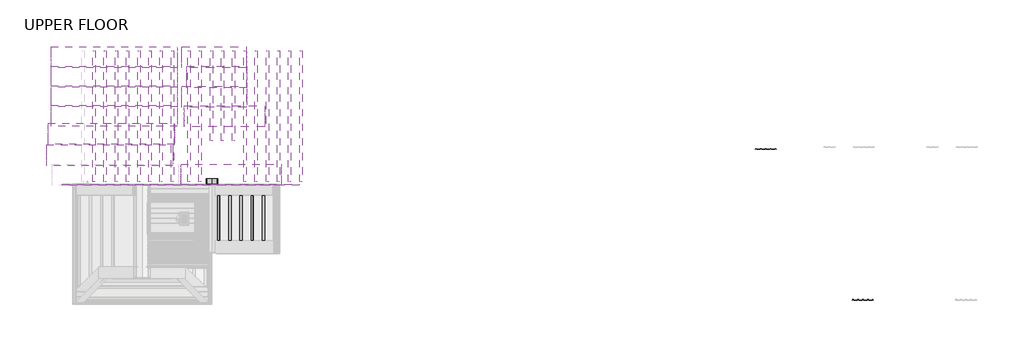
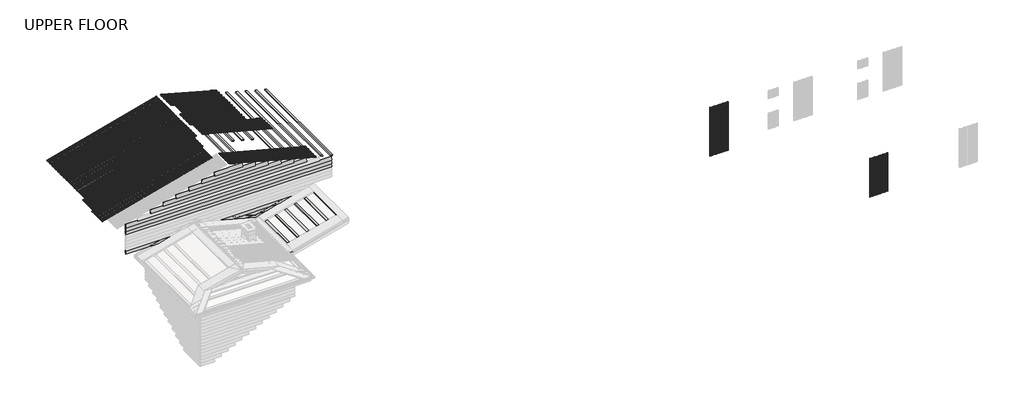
# One storey, part 6 of 8: 53 beams.
"""IFC4 building model written with IfcOpenShell, lengths in millimetres."""

from ifc_helpers import new_model, si_unit, point, frame, frame_2d, origin, place, context, project, spatial, polyline, circle_curve, trimmed, segment, composite_curve, outline, extrude, faceted_brep, transform, mapped, element, save
from components import beam_5dd2faeb, beam_7249f60c, beam_1c965193, beam_935f3c2a, beam_6eb492fa, beam_005bef61, beam_17126593, beam_597bee83, beam_33133b0b, beam_f31299b4, beam_e4c2bb90, beam_09a4361b, beam_6bf42582, beam_c81321a4, timber_gauged_nz_200_x_20_2958524c, timber_gauged_nz_200_x_20_781fe1b4, timber_gauged_nz_90_x_45_95d2d74a, timber_gauged_nz_90_x_45_65e6c5fe, timber_gauged_nz_90_x_45_1150c088

model = new_model("IFC4")

# Units and contexts
model_context = context("Model", 3, world=origin())
ifc_project = project(units=[si_unit("LENGTHUNIT", "METRE", prefix="MILLI")], contexts=[model_context])

# Site, building, storey
site = spatial("IfcSite", under=ifc_project)
building = spatial("IfcBuilding", under=site)
storey = spatial("IfcBuildingStorey", under=building, Name="UPPER FLOOR", Elevation=2700.0)

# Beams
placement = place(None, origin())
element("IfcBeam", 1, ObjectType="weatherboad : weatherboad", at=placement, inside=storey, context=model_context, shape_type="Brep", body=[
    faceted_brep([(-11066.1237376, -22095.3135714, 3295.6426274), (-11058.1375384, -22095.5797958, 3293.5027318), (-11050.1513392, -22095.3135714, 3295.6426274), (-11058.1375384, -22086.1704124, 3293.5027318), (-11061.9339927, -22086.1704124, 3294.5199886), (-11054.3410841, -22086.1704124, 3294.5199886)], [[[0, 1, 2]], [[3, 4, 5]], [[4, 0, 2, 5]], [[1, 0, 4, 3]], [[2, 1, 3, 5]]]),
])
element("IfcBeam", 2, ObjectType="weatherboad : weatherboad", at=placement, inside=storey, context=model_context, shape_type="Brep", body=[
    faceted_brep([(-11638.9935366, -22095.3135714, 3449.1426274), (-11058.1375384, -22114.6767312, 3293.5027318), (-10477.2815402, -22095.3135714, 3449.1426274), (-11058.1375384, -22095.5714026, 3293.5027318), (-11343.8817133, -22086.1704124, 3370.0676527), (-10772.3933635, -22086.1704124, 3370.0676527), (-11634.8037917, -22086.1704124, 3448.0199886), (-10481.4712851, -22086.1704124, 3448.0199886)], [[[0, 1, 2]], [[3, 4, 5]], [[4, 6, 7, 5]], [[6, 0, 2, 7]], [[1, 0, 6, 4, 3]], [[2, 1, 3, 5, 7]]]),
])
element("IfcBeam", 3, ObjectType="weatherboad : weatherboad", at=placement, inside=storey, context=model_context, shape_type="Brep", body=[
    faceted_brep([(-12211.8633355, -22095.3135714, 3602.6426274), (-11545.2325252, -22117.5360826, 3424.0194401), (-10571.0425516, -22117.5360826, 3424.0194401), (-9904.4117413, -22095.3135714, 3602.6426274), (-11536.5908961, -22098.6777057, 3421.7039226), (-10579.6841807, -22098.6777057, 3421.7039226), (-11916.7515123, -22086.1704124, 3523.5676527), (-10199.5235645, -22086.1704124, 3523.5676527), (-12207.6735907, -22086.1704124, 3601.5199886), (-9908.6014862, -22086.1704124, 3601.5199886)], [[[0, 1, 2, 3]], [[1, 4, 5, 2]], [[4, 6, 7, 5]], [[6, 8, 9, 7]], [[8, 0, 3, 9]], [[1, 0, 8, 6, 4]], [[3, 2, 5, 7, 9]]]),
])
element("IfcBeam", 4, ObjectType="weatherboad : weatherboad", at=placement, inside=storey, context=model_context, shape_type="Brep", body=[
    faceted_brep([(-16868.1375384, -22095.3135714, 3756.1426274), (-16868.1375384, -22086.1704124, 3755.0199886), (-16868.1375384, -22086.1704124, 3677.0676527), (-16868.1375384, -22098.6777057, 3575.2039226), (-16868.1375384, -22117.5360826, 3577.5194401), (-15428.3918495, -22117.5360826, 3577.5194401), (-14761.7610391, -22095.3135714, 3756.1426274), (-15437.0334785, -22098.6777057, 3575.2039226), (-15056.8728623, -22086.1704124, 3677.0676527), (-14765.950784, -22086.1704124, 3755.0199886)], [[[0, 1, 2, 3, 4]], [[0, 4, 5, 6]], [[4, 3, 7, 5]], [[3, 2, 8, 7]], [[2, 1, 9, 8]], [[1, 0, 6, 9]], [[6, 5, 7, 8, 9]]]),
    faceted_brep([(-12784.7331345, -22095.3135714, 3756.1426274), (-12118.1023241, -22117.5360826, 3577.5194401), (-9998.1727527, -22117.5360826, 3577.5194401), (-9331.5419423, -22095.3135714, 3756.1426274), (-12109.4606951, -22098.6777057, 3575.2039226), (-10006.8143817, -22098.6777057, 3575.2039226), (-12489.6213113, -22086.1704124, 3677.0676527), (-9626.6537655, -22086.1704124, 3677.0676527), (-12780.5433896, -22086.1704124, 3755.0199886), (-9335.7316872, -22086.1704124, 3755.0199886)], [[[0, 1, 2, 3]], [[1, 4, 5, 2]], [[4, 6, 7, 5]], [[6, 8, 9, 7]], [[8, 0, 3, 9]], [[1, 0, 8, 6, 4]], [[3, 2, 5, 7, 9]]]),
])
element("IfcBeam", 5, ObjectType="3D_Metalcraft T-Rib3 : 3D_Metalcraft T-Rib 2", at=placement, inside=storey, context=model_context, shape_type="SweptSolid", body=[
    extrude(outline(composite_curve([segment(polyline([(10116.5389635, -20727.811167), (10071.901934, -20727.811167)]), True, "CONTINUOUS"), segment(trimmed(circle_curve(frame_2d((10072.6822552, -20723.4724554)), 4.4083239), [point((10071.901934, -20727.811167))], [point((10069.0809482, -20726.014877))], False, "CARTESIAN"), True, "CONTINUOUS"), segment(polyline([(10069.0809482, -20726.014877), (10054.4746822, -20703.9737825)]), True, "CONTINUOUS"), segment(trimmed(circle_curve(frame_2d((10052.9626373, -20704.9757895)), 1.8139178), [point((10054.4746822, -20703.9737825))], [point((10053.3727419, -20703.2088395))], True, "CARTESIAN"), True, "CONTINUOUS"), segment(trimmed(circle_curve(frame_2d((10044.3071398, -20731.9107067)), 30.0995402), [point((10053.3727419, -20703.2088395))], [point((10044.3012249, -20701.8111671))], True, "CARTESIAN"), True, "CONTINUOUS"), segment(trimmed(circle_curve(frame_2d((10044.29531, -20731.9107067)), 30.0995402), [point((10044.3012249, -20701.8111671))], [point((10035.2297079, -20703.2088395))], True, "CARTESIAN"), True, "CONTINUOUS"), segment(trimmed(circle_curve(frame_2d((10035.6398125, -20704.9757895)), 1.8139178), [point((10035.2297079, -20703.2088395))], [point((10034.1277676, -20703.9737825))], True, "CARTESIAN"), True, "CONTINUOUS"), segment(polyline([(10034.1277676, -20703.9737825), (10019.9502006, -20725.3679632)]), True, "CONTINUOUS"), segment(trimmed(circle_curve(frame_2d((10019.5334108, -20725.0917635)), 0.5), [point((10019.9502006, -20725.3679632))], [point((10019.116621, -20724.8155638))], False, "CARTESIAN"), True, "CONTINUOUS"), segment(polyline([(10019.116621, -20724.8155638), (10033.4621302, -20703.1679556)]), True, "CONTINUOUS"), segment(trimmed(circle_curve(frame_2d((10035.0604038, -20704.2271048)), 1.9173616), [point((10033.4621302, -20703.1679556))], [point((10034.5184026, -20702.3879446))], False, "CARTESIAN"), True, "CONTINUOUS"), segment(trimmed(circle_curve(frame_2d((10044.29531, -20731.9107067)), 31.0995402), [point((10034.5184026, -20702.3879446))], [point((10044.3012249, -20700.8111671))], False, "CARTESIAN"), True, "CONTINUOUS"), segment(trimmed(circle_curve(frame_2d((10044.3071398, -20731.9107067)), 31.0995402), [point((10044.3012249, -20700.8111671))], [point((10054.0840472, -20702.3879446))], False, "CARTESIAN"), True, "CONTINUOUS"), segment(trimmed(circle_curve(frame_2d((10053.542046, -20704.2271048)), 1.9173616), [point((10054.0840472, -20702.3879446))], [point((10055.1403196, -20703.1679556))], False, "CARTESIAN"), True, "CONTINUOUS"), segment(polyline([(10055.1403196, -20703.1679556), (10069.9058608, -20725.4493991)]), True, "CONTINUOUS"), segment(trimmed(circle_curve(frame_2d((10072.6822552, -20723.4724554)), 3.4083239), [point((10069.9058608, -20725.4493991))], [point((10071.9969257, -20726.811167))], True, "CARTESIAN"), True, "CONTINUOUS"), segment(polyline([(10071.9969257, -20726.811167), (10116.3381507, -20726.811167), (10120.4543009, -20725.0885495), (10158.1481489, -20725.0885495), (10162.2642991, -20726.811167), (10204.2062333, -20726.811167)]), True, "CONTINUOUS"), segment(trimmed(circle_curve(frame_2d((10203.5209037, -20723.4724554)), 3.4083239), [point((10204.2062333, -20726.811167))], [point((10206.4235341, -20725.2589068))], True, "CARTESIAN"), True, "CONTINUOUS"), segment(polyline([(10206.4235341, -20725.2589068), (10221.8012249, -20702.0537196)]), True, "CONTINUOUS"), segment(trimmed(circle_curve(frame_2d((10225.1941504, -20704.4070438)), 4.1291741), [point((10221.8012249, -20702.0537196))], [point((10223.8886949, -20700.489664))], False, "CARTESIAN"), True, "CONTINUOUS"), segment(trimmed(circle_curve(frame_2d((10234.29531, -20731.9107067)), 33.0995402), [point((10223.8886949, -20700.489664))], [point((10234.3012249, -20698.811167))], False, "CARTESIAN"), True, "CONTINUOUS"), segment(trimmed(circle_curve(frame_2d((10234.3071398, -20731.9107067)), 33.0995402), [point((10234.3012249, -20698.811167))], [point((10244.7137549, -20700.489664))], False, "CARTESIAN"), True, "CONTINUOUS"), segment(trimmed(circle_curve(frame_2d((10243.4082994, -20704.4070438)), 4.1291741), [point((10244.7137549, -20700.489664))], [point((10246.8012249, -20702.0537196))], False, "CARTESIAN"), True, "CONTINUOUS"), segment(polyline([(10246.8012249, -20702.0537196), (10262.1789157, -20725.2589068)]), True, "CONTINUOUS"), segment(trimmed(circle_curve(frame_2d((10265.0815461, -20723.4724554)), 3.4083239), [point((10262.1789157, -20725.2589068))], [point((10264.3962165, -20726.811167))], True, "CARTESIAN"), True, "CONTINUOUS"), segment(polyline([(10264.3962165, -20726.811167), (10306.3381507, -20726.811167), (10310.4543009, -20725.0885495), (10348.1481489, -20725.0885495), (10352.2642991, -20726.811167), (10394.2062333, -20726.811167)]), True, "CONTINUOUS"), segment(trimmed(circle_curve(frame_2d((10393.5209037, -20723.4724554)), 3.4083239), [point((10394.2062333, -20726.811167))], [point((10396.4235341, -20725.2589068))], True, "CARTESIAN"), True, "CONTINUOUS"), segment(polyline([(10396.4235341, -20725.2589068), (10411.8012249, -20702.0537196)]), True, "CONTINUOUS"), segment(trimmed(circle_curve(frame_2d((10415.1941504, -20704.4070438)), 4.1291741), [point((10411.8012249, -20702.0537196))], [point((10413.8886949, -20700.489664))], False, "CARTESIAN"), True, "CONTINUOUS"), segment(trimmed(circle_curve(frame_2d((10424.29531, -20731.9107067)), 33.0995402), [point((10413.8886949, -20700.489664))], [point((10424.3012249, -20698.811167))], False, "CARTESIAN"), True, "CONTINUOUS"), segment(trimmed(circle_curve(frame_2d((10424.3071398, -20731.9107067)), 33.0995402), [point((10424.3012249, -20698.811167))], [point((10434.7137549, -20700.489664))], False, "CARTESIAN"), True, "CONTINUOUS"), segment(trimmed(circle_curve(frame_2d((10433.4082994, -20704.4070438)), 4.1291741), [point((10434.7137549, -20700.489664))], [point((10436.8012249, -20702.0537196))], False, "CARTESIAN"), True, "CONTINUOUS"), segment(polyline([(10436.8012249, -20702.0537196), (10452.1789157, -20725.2589068)]), True, "CONTINUOUS"), segment(trimmed(circle_curve(frame_2d((10455.0815461, -20723.4724554)), 3.4083239), [point((10452.1789157, -20725.2589068))], [point((10454.3962166, -20726.811167))], True, "CARTESIAN"), True, "CONTINUOUS"), segment(polyline([(10454.3962166, -20726.811167), (10496.3381507, -20726.811167), (10500.4543009, -20725.0885495), (10538.1481489, -20725.0885495), (10542.2642991, -20726.811167), (10584.2062333, -20726.811167)]), True, "CONTINUOUS"), segment(trimmed(circle_curve(frame_2d((10583.5209037, -20723.4724554)), 3.4083239), [point((10584.2062333, -20726.811167))], [point((10586.4235341, -20725.2589068))], True, "CARTESIAN"), True, "CONTINUOUS"), segment(polyline([(10586.4235341, -20725.2589068), (10601.8012249, -20702.0537196)]), True, "CONTINUOUS"), segment(trimmed(circle_curve(frame_2d((10605.1941504, -20704.4070438)), 4.1291741), [point((10601.8012249, -20702.0537196))], [point((10603.8886949, -20700.489664))], False, "CARTESIAN"), True, "CONTINUOUS"), segment(trimmed(circle_curve(frame_2d((10614.29531, -20731.9107067)), 33.0995402), [point((10603.8886949, -20700.489664))], [point((10614.3012249, -20698.811167))], False, "CARTESIAN"), True, "CONTINUOUS"), segment(trimmed(circle_curve(frame_2d((10614.3071398, -20731.9107067)), 33.0995402), [point((10614.3012249, -20698.811167))], [point((10624.7137549, -20700.489664))], False, "CARTESIAN"), True, "CONTINUOUS"), segment(trimmed(circle_curve(frame_2d((10623.4082994, -20704.4070438)), 4.1291741), [point((10624.7137549, -20700.489664))], [point((10626.8012249, -20702.0537196))], False, "CARTESIAN"), True, "CONTINUOUS"), segment(polyline([(10626.8012249, -20702.0537196), (10642.1789157, -20725.2589068)]), True, "CONTINUOUS"), segment(trimmed(circle_curve(frame_2d((10645.0815461, -20723.4724554)), 3.4083239), [point((10642.1789157, -20725.2589068))], [point((10644.3962166, -20726.811167))], True, "CARTESIAN"), True, "CONTINUOUS"), segment(polyline([(10644.3962166, -20726.811167), (10686.3381507, -20726.811167), (10690.454301, -20725.0885495), (10728.1481489, -20725.0885495), (10732.2642991, -20726.811167), (10774.2062333, -20726.811167)]), True, "CONTINUOUS"), segment(trimmed(circle_curve(frame_2d((10773.5209037, -20723.4724554)), 3.4083239), [point((10774.2062333, -20726.811167))], [point((10776.4235341, -20725.2589068))], True, "CARTESIAN"), True, "CONTINUOUS"), segment(polyline([(10776.4235341, -20725.2589068), (10791.8012249, -20702.0537196)]), True, "CONTINUOUS"), segment(trimmed(circle_curve(frame_2d((10795.1941504, -20704.4070438)), 4.1291741), [point((10791.8012249, -20702.0537196))], [point((10793.8886949, -20700.489664))], False, "CARTESIAN"), True, "CONTINUOUS"), segment(trimmed(circle_curve(frame_2d((10804.29531, -20731.9107067)), 33.0995402), [point((10793.8886949, -20700.489664))], [point((10804.3012249, -20698.811167))], False, "CARTESIAN"), True, "CONTINUOUS"), segment(trimmed(circle_curve(frame_2d((10804.3071398, -20731.9107067)), 33.0995402), [point((10804.3012249, -20698.811167))], [point((10814.7137549, -20700.489664))], False, "CARTESIAN"), True, "CONTINUOUS"), segment(trimmed(circle_curve(frame_2d((10813.4082994, -20704.4070438)), 4.1291741), [point((10814.7137549, -20700.489664))], [point((10816.8012249, -20702.0537196))], False, "CARTESIAN"), True, "CONTINUOUS"), segment(polyline([(10816.8012249, -20702.0537196), (10830.9797854, -20723.4493996)]), True, "CONTINUOUS"), segment(trimmed(circle_curve(frame_2d((10833.7561794, -20721.4724554)), 3.4083239), [point((10830.9797854, -20723.4493996))], [point((10833.0708499, -20724.811167))], True, "CARTESIAN"), True, "CONTINUOUS"), segment(polyline([(10833.0708499, -20724.811167), (10836.6244934, -20724.811167)]), True, "CONTINUOUS"), segment(trimmed(circle_curve(frame_2d((10836.6244934, -20725.311167)), 0.5), [point((10836.6244934, -20724.811167))], [point((10836.6244934, -20725.811167))], False, "CARTESIAN"), True, "CONTINUOUS"), segment(polyline([(10836.6244934, -20725.811167), (10832.9758582, -20725.811167)]), True, "CONTINUOUS"), segment(trimmed(circle_curve(frame_2d((10833.7561794, -20721.4724554)), 4.4083239), [point((10832.9758582, -20725.811167))], [point((10830.1548728, -20724.0148775))], False, "CARTESIAN"), True, "CONTINUOUS"), segment(polyline([(10830.1548728, -20724.0148775), (10815.9738992, -20702.6155562)]), True, "CONTINUOUS"), segment(trimmed(circle_curve(frame_2d((10813.4082994, -20704.4070438)), 3.1291741), [point((10815.9738992, -20702.6155562))], [point((10814.3984218, -20701.4386456))], True, "CARTESIAN"), True, "CONTINUOUS"), segment(trimmed(circle_curve(frame_2d((10804.3071398, -20731.9107067)), 32.0995402), [point((10814.3984218, -20701.4386456))], [point((10804.3012249, -20699.811167))], True, "CARTESIAN"), True, "CONTINUOUS"), segment(trimmed(circle_curve(frame_2d((10804.29531, -20731.9107067)), 32.0995402), [point((10804.3012249, -20699.811167))], [point((10794.204028, -20701.4386456))], True, "CARTESIAN"), True, "CONTINUOUS"), segment(trimmed(circle_curve(frame_2d((10795.1941504, -20704.4070438)), 3.1291741), [point((10794.204028, -20701.4386456))], [point((10792.6285506, -20702.6155562))], True, "CARTESIAN"), True, "CONTINUOUS"), segment(polyline([(10792.6285506, -20702.6155562), (10777.1222107, -20726.014877)]), True, "CONTINUOUS"), segment(trimmed(circle_curve(frame_2d((10773.5209037, -20723.4724554)), 4.4083239), [point((10777.1222107, -20726.014877))], [point((10774.3012249, -20727.811167))], False, "CARTESIAN"), True, "CONTINUOUS"), segment(polyline([(10774.3012249, -20727.811167), (10732.0634863, -20727.811167), (10727.947336, -20726.0885495), (10690.6551138, -20726.0885495), (10686.5389636, -20727.811167), (10644.3012249, -20727.811167)]), True, "CONTINUOUS"), segment(trimmed(circle_curve(frame_2d((10645.0815461, -20723.4724554)), 4.4083239), [point((10644.3012249, -20727.811167))], [point((10641.4802391, -20726.014877))], False, "CARTESIAN"), True, "CONTINUOUS"), segment(polyline([(10641.4802391, -20726.014877), (10625.9738992, -20702.6155562)]), True, "CONTINUOUS"), segment(trimmed(circle_curve(frame_2d((10623.4082994, -20704.4070438)), 3.1291741), [point((10625.9738992, -20702.6155562))], [point((10624.3984218, -20701.4386456))], True, "CARTESIAN"), True, "CONTINUOUS"), segment(trimmed(circle_curve(frame_2d((10614.3071398, -20731.9107067)), 32.0995402), [point((10624.3984218, -20701.4386456))], [point((10614.3012249, -20699.811167))], True, "CARTESIAN"), True, "CONTINUOUS"), segment(trimmed(circle_curve(frame_2d((10614.29531, -20731.9107067)), 32.0995402), [point((10614.3012249, -20699.811167))], [point((10604.204028, -20701.4386456))], True, "CARTESIAN"), True, "CONTINUOUS"), segment(trimmed(circle_curve(frame_2d((10605.1941504, -20704.4070438)), 3.1291741), [point((10604.204028, -20701.4386456))], [point((10602.6285506, -20702.6155562))], True, "CARTESIAN"), True, "CONTINUOUS"), segment(polyline([(10602.6285506, -20702.6155562), (10587.1222107, -20726.014877)]), True, "CONTINUOUS"), segment(trimmed(circle_curve(frame_2d((10583.5209037, -20723.4724554)), 4.4083239), [point((10587.1222107, -20726.014877))], [point((10584.3012249, -20727.811167))], False, "CARTESIAN"), True, "CONTINUOUS"), segment(polyline([(10584.3012249, -20727.811167), (10542.0634863, -20727.811167), (10537.947336, -20726.0885495), (10500.6551138, -20726.0885495), (10496.5389635, -20727.811167), (10454.3012249, -20727.811167)]), True, "CONTINUOUS"), segment(trimmed(circle_curve(frame_2d((10455.0815461, -20723.4724554)), 4.4083239), [point((10454.3012249, -20727.811167))], [point((10451.4802391, -20726.014877))], False, "CARTESIAN"), True, "CONTINUOUS"), segment(polyline([(10451.4802391, -20726.014877), (10435.9738992, -20702.6155562)]), True, "CONTINUOUS"), segment(trimmed(circle_curve(frame_2d((10433.4082994, -20704.4070438)), 3.1291741), [point((10435.9738992, -20702.6155562))], [point((10434.3984218, -20701.4386456))], True, "CARTESIAN"), True, "CONTINUOUS"), segment(trimmed(circle_curve(frame_2d((10424.3071398, -20731.9107067)), 32.0995402), [point((10434.3984218, -20701.4386456))], [point((10424.3012249, -20699.811167))], True, "CARTESIAN"), True, "CONTINUOUS"), segment(trimmed(circle_curve(frame_2d((10424.29531, -20731.9107067)), 32.0995402), [point((10424.3012249, -20699.811167))], [point((10414.204028, -20701.4386456))], True, "CARTESIAN"), True, "CONTINUOUS"), segment(trimmed(circle_curve(frame_2d((10415.1941504, -20704.4070438)), 3.1291741), [point((10414.204028, -20701.4386456))], [point((10412.6285506, -20702.6155562))], True, "CARTESIAN"), True, "CONTINUOUS"), segment(polyline([(10412.6285506, -20702.6155562), (10397.1222107, -20726.014877)]), True, "CONTINUOUS"), segment(trimmed(circle_curve(frame_2d((10393.5209037, -20723.4724554)), 4.4083239), [point((10397.1222107, -20726.014877))], [point((10394.3012249, -20727.811167))], False, "CARTESIAN"), True, "CONTINUOUS"), segment(polyline([(10394.3012249, -20727.811167), (10352.0634863, -20727.811167), (10347.947336, -20726.0885495), (10310.6551138, -20726.0885495), (10306.5389635, -20727.811167), (10264.3012249, -20727.811167)]), True, "CONTINUOUS"), segment(trimmed(circle_curve(frame_2d((10265.0815461, -20723.4724554)), 4.4083239), [point((10264.3012249, -20727.811167))], [point((10261.4802391, -20726.014877))], False, "CARTESIAN"), True, "CONTINUOUS"), segment(polyline([(10261.4802391, -20726.014877), (10245.9738992, -20702.6155562)]), True, "CONTINUOUS"), segment(trimmed(circle_curve(frame_2d((10243.4082994, -20704.4070438)), 3.1291741), [point((10245.9738992, -20702.6155562))], [point((10244.3984218, -20701.4386456))], True, "CARTESIAN"), True, "CONTINUOUS"), segment(trimmed(circle_curve(frame_2d((10234.3071398, -20731.9107067)), 32.0995402), [point((10244.3984218, -20701.4386456))], [point((10234.3012249, -20699.811167))], True, "CARTESIAN"), True, "CONTINUOUS"), segment(trimmed(circle_curve(frame_2d((10234.29531, -20731.9107067)), 32.0995402), [point((10234.3012249, -20699.811167))], [point((10224.204028, -20701.4386456))], True, "CARTESIAN"), True, "CONTINUOUS"), segment(trimmed(circle_curve(frame_2d((10225.1941504, -20704.4070438)), 3.1291741), [point((10224.204028, -20701.4386456))], [point((10222.6285506, -20702.6155562))], True, "CARTESIAN"), True, "CONTINUOUS"), segment(polyline([(10222.6285506, -20702.6155562), (10207.1222107, -20726.014877)]), True, "CONTINUOUS"), segment(trimmed(circle_curve(frame_2d((10203.5209037, -20723.4724554)), 4.4083239), [point((10207.1222107, -20726.014877))], [point((10204.3012249, -20727.811167))], False, "CARTESIAN"), True, "CONTINUOUS"), segment(polyline([(10204.3012249, -20727.811167), (10162.0634863, -20727.811167), (10157.947336, -20726.0885495), (10120.6551138, -20726.0885495), (10116.5389635, -20727.811167)]), True, "CONTINUOUS")], self_intersect=False)), frame((0.0, 0.0, -2042.7323421), z_axis=(0.0, 0.0, 1.0), x_axis=(1.0, 0.0, 0.0)), (0.0, 0.0, 1.0), 2280.0),
])
beam_shape = beam_5dd2faeb(model_context)
element("IfcBeam", 6, ObjectType="3D_Metalcraft T-Rib : 3D_Metalcraft T-Rib", at=placement, inside=storey, context=model_context, shape_type="MappedRepresentation", body=[
    mapped(beam_shape, transform((-10312.245615, -21334.9204124, 5749.2381857), x_axis=(0.9659258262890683, 0.0, -0.2588190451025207), y_axis=(0.0, 1.0, 0.0), z_axis=(0.2588190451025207, 0.0, 0.9659258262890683))),
])
beam_2_shape = beam_7249f60c(model_context)
element("IfcBeam", 7, ObjectType="3D_Metalcraft T-Rib : 3D_Metalcraft T-Rib", at=placement, inside=storey, context=model_context, shape_type="MappedRepresentation", body=[
    mapped(beam_2_shape, transform((-10564.1466041, -19054.9204124, 5816.7348523), x_axis=(0.9659258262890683, 0.0, -0.2588190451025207), y_axis=(0.0, 1.0, 0.0), z_axis=(0.2588190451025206, 0.0, 0.9659258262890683))),
])
beam_3_shape = beam_1c965193(model_context)
element("IfcBeam", 8, ObjectType="3D_Metalcraft T-Rib : 3D_Metalcraft T-Rib", at=placement, inside=storey, context=model_context, shape_type="MappedRepresentation", body=[
    mapped(beam_3_shape, transform((-10970.1126179, -18294.9204124, 5925.5131178), x_axis=(0.9659258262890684, 0.0, -0.2588190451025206), y_axis=(0.0, 1.0000000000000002, 0.0), z_axis=(0.2588190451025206, 0.0, 0.9659258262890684))),
])
beam_4_shape = beam_935f3c2a(model_context)
element("IfcBeam", 9, ObjectType="3D_Metalcraft T-Rib : 3D_Metalcraft T-Rib", at=placement, inside=storey, context=model_context, shape_type="MappedRepresentation", body=[
    mapped(beam_4_shape, transform((-10869.1918416, -17534.9204124, 5898.4714773), x_axis=(0.9659258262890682, 0.0, -0.25881904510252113), y_axis=(0.0, 1.0, 0.0), z_axis=(0.25881904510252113, 0.0, 0.9659258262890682))),
])
beam_5_shape = beam_6eb492fa(model_context)
element("IfcBeam", 10, ObjectType="3D_Metalcraft T-Rib : 3D_Metalcraft T-Rib", at=placement, inside=storey, context=model_context, shape_type="MappedRepresentation", body=[
    mapped(beam_5_shape, transform((-10971.1504469, -16774.9204124, 5925.7912033), x_axis=(0.9659258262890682, 0.0, -0.25881904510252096), y_axis=(0.0, 1.0, 0.0), z_axis=(0.25881904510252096, 0.0, 0.9659258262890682))),
])
beam_6_shape = beam_005bef61(model_context)
element("IfcBeam", 11, ObjectType="3D_Metalcraft T-Rib : 3D_Metalcraft T-Rib", at=placement, inside=storey, context=model_context, shape_type="MappedRepresentation", body=[
    mapped(beam_6_shape, transform((-15026.4317592, -21330.3735388, 5536.91463), x_axis=(-0.9659258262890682, 0.0, -0.2588190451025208), y_axis=(0.0, -1.0, 0.0), z_axis=(-0.25881904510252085, 0.0, 0.9659258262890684))),
])
element("IfcBeam", 12, ObjectType="3D_Metalcraft T-Rib : 3D_Metalcraft T-Rib", at=placement, inside=storey, context=model_context, shape_type="MappedRepresentation", body=[
    mapped(beam_6_shape, transform((-14966.9141636, -20508.6171104, 5552.8623217), x_axis=(-0.9659258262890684, 0.0, -0.2588190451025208), y_axis=(0.0, -1.0000000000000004, 0.0), z_axis=(-0.25881904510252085, 0.0, 0.9659258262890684))),
])
element("IfcBeam", 13, ObjectType="3D_Metalcraft T-Rib : 3D_Metalcraft T-Rib", at=placement, inside=storey, context=model_context, shape_type="MappedRepresentation", body=[
    mapped(beam_6_shape, transform((-14852.5651105, -19810.3735388, 5583.5020581), x_axis=(-0.9659258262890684, 0.0, -0.25881904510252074), y_axis=(0.0, -1.0000000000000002, 0.0), z_axis=(-0.25881904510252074, 0.0, 0.9659258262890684))),
])
element("IfcBeam", 14, ObjectType="3D_Metalcraft T-Rib : 3D_Metalcraft T-Rib", at=placement, inside=storey, context=model_context, shape_type="MappedRepresentation", body=[
    mapped(beam_6_shape, transform((-14852.5651105, -19050.3735388, 5583.5020581), x_axis=(-0.9659258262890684, 0.0, -0.25881904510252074), y_axis=(0.0, -1.0000000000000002, 0.0), z_axis=(-0.25881904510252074, 0.0, 0.9659258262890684))),
])
element("IfcBeam", 15, ObjectType="3D_Metalcraft T-Rib : 3D_Metalcraft T-Rib", at=placement, inside=storey, context=model_context, shape_type="MappedRepresentation", body=[
    mapped(beam_6_shape, transform((-14852.5651105, -18290.3735388, 5583.5020581), x_axis=(-0.9659258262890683, 0.0, -0.2588190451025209), y_axis=(0.0, -1.0000000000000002, 0.0), z_axis=(-0.25881904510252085, 0.0, 0.9659258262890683))),
])
element("IfcBeam", 16, ObjectType="3D_Metalcraft T-Rib : 3D_Metalcraft T-Rib", at=placement, inside=storey, context=model_context, shape_type="MappedRepresentation", body=[
    mapped(beam_6_shape, transform((-14852.5651105, -17530.3735388, 5583.5020581), x_axis=(-0.9659258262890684, 0.0, -0.25881904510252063), y_axis=(0.0, -1.0000000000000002, 0.0), z_axis=(-0.25881904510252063, 0.0, 0.9659258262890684))),
])
beam_7_shape = beam_17126593(model_context)
element("IfcBeam", 17, ObjectType="weatherboad : weatherboad", at=placement, inside=storey, context=model_context, shape_type="MappedRepresentation", body=[
    mapped(beam_7_shape, transform((-12273.1375384, -22086.1704124, 4677.1426274), x_axis=(1.0, 0.0, 0.0), y_axis=(0.0, 0.0, -1.0), z_axis=(0.0, 1.0, 0.0))),
])
element("IfcBeam", 18, ObjectType="weatherboad : weatherboad", at=placement, inside=storey, context=model_context, shape_type="MappedRepresentation", body=[
    mapped(beam_7_shape, transform((-12273.1375384, -22086.1704124, 4830.6426274), x_axis=(1.0, 0.0, 0.0), y_axis=(0.0, 0.0, -1.0), z_axis=(0.0, 1.0, 0.0))),
])
element("IfcBeam", 19, ObjectType="weatherboad : weatherboad", at=placement, inside=storey, context=model_context, shape_type="MappedRepresentation", body=[
    mapped(beam_7_shape, transform((-12273.1375384, -22086.1704124, 4984.1426274), x_axis=(1.0, 0.0, 0.0), y_axis=(0.0, 0.0, -1.0), z_axis=(0.0, 1.0, 0.0))),
])
beam_8_shape = beam_597bee83(model_context)
element("IfcBeam", 20, ObjectType="weatherboad : weatherboad", at=placement, inside=storey, context=model_context, shape_type="MappedRepresentation", body=[
    mapped(beam_8_shape, transform((-12273.1375384, -22086.1704124, 5291.1426274), x_axis=(1.0, 0.0, 0.0), y_axis=(0.0, 0.0, -1.0), z_axis=(0.0, 1.0, 0.0))),
])
beam_9_shape = beam_33133b0b(model_context)
element("IfcBeam", 21, ObjectType="weatherboad : weatherboad", at=placement, inside=storey, context=model_context, shape_type="MappedRepresentation", body=[
    mapped(beam_9_shape, transform((-12273.1375384, -22086.1704124, 5444.6426274), x_axis=(1.0, 0.0, 0.0), y_axis=(0.0, 0.0, -1.0), z_axis=(0.0, 1.0, 0.0))),
])
beam_10_shape = beam_f31299b4(model_context)
element("IfcBeam", 22, ObjectType="weatherboad : weatherboad", at=placement, inside=storey, context=model_context, shape_type="MappedRepresentation", body=[
    mapped(beam_10_shape, transform((-12273.1375384, -22086.1704124, 5598.1426274), x_axis=(1.0, 0.0, 0.0), y_axis=(0.0, 0.0, -1.0), z_axis=(0.0, 1.0, 0.0))),
])
beam_11_shape = beam_e4c2bb90(model_context)
element("IfcBeam", 23, ObjectType="weatherboad : weatherboad", at=placement, inside=storey, context=model_context, shape_type="MappedRepresentation", body=[
    mapped(beam_11_shape, transform((-12273.1375384, -22086.1704124, 5751.6426274), x_axis=(1.0, 0.0, 0.0), y_axis=(0.0, 0.0, -1.0), z_axis=(0.0, 1.0, 0.0))),
])
beam_12_shape = beam_09a4361b(model_context)
element("IfcBeam", 24, ObjectType="weatherboad : weatherboad", at=placement, inside=storey, context=model_context, shape_type="MappedRepresentation", body=[
    mapped(beam_12_shape, transform((-12273.1375384, -22086.1704124, 5905.1426274), x_axis=(1.0, 0.0, 0.0), y_axis=(0.0, 0.0, -1.0), z_axis=(0.0, 1.0, 0.0))),
])
beam_13_shape = beam_6bf42582(model_context)
element("IfcBeam", 25, ObjectType="weatherboad : weatherboad", at=placement, inside=storey, context=model_context, shape_type="MappedRepresentation", body=[
    mapped(beam_13_shape, transform((-12273.1375384, -22086.1704124, 6058.6426274), x_axis=(1.0, 0.0, 0.0), y_axis=(0.0, 0.0, -1.0), z_axis=(0.0, 1.0, 0.0))),
])
beam_14_shape = beam_c81321a4(model_context)
element("IfcBeam", 26, ObjectType="3D_Metalcraft T-Rib1 : 3D_Metalcraft T-Rib 2", at=placement, inside=storey, context=model_context, shape_type="MappedRepresentation", body=[
    mapped(beam_14_shape, transform((14575.3825627, -26549.7391961, -846.662203), x_axis=(0.0, 0.0, 1.0), y_axis=(1.0, 0.0, 0.0), z_axis=(0.0, 1.0, 0.0))),
])
timber_gauged_nz_200_x_20_shape = timber_gauged_nz_200_x_20_2958524c(model_context)
element("IfcBeam", 27, ObjectType="Timber Gauged (NZ) : 200 x 20", at=placement, inside=storey, context=model_context, shape_type="MappedRepresentation", body=[
    mapped(timber_gauged_nz_200_x_20_shape, transform((-11165.7875001, -23297.6204481, 3197.3405196), x_axis=(0.0, 1.0, 0.0), y_axis=(-0.9659258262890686, 0.0, 0.2588190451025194), z_axis=(0.2588190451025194, 0.0, 0.9659258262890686))),
])
timber_gauged_nz_200_x_20_2_shape = timber_gauged_nz_200_x_20_781fe1b4(model_context)
element("IfcBeam", 28, ObjectType="Timber Gauged (NZ) : 200 x 20", at=placement, inside=storey, context=model_context, shape_type="MappedRepresentation", body=[
    mapped(timber_gauged_nz_200_x_20_2_shape, transform((-10950.4875768, -23297.6204481, 3197.3405196), x_axis=(0.0, 1.0, 0.0), y_axis=(-0.9659258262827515, 0.0, -0.2588190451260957), z_axis=(-0.2588190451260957, 0.0, 0.9659258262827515))),
])
element("IfcBeam", 29, ObjectType="Timber Gauged (NZ) : 90 x 45", at=placement, inside=storey, context=model_context, shape_type="SweptSolid", body=[
    extrude(outline(polyline([(0.0, -89.9999999), (0.0, 0.0), (623.5459648, 0.0), (623.5459648, -89.9999999), (0.0, -89.9999999)])), frame((-11133.9738284, -21991.1704124, 5867.9067147), z_axis=(0.2588190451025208, 0.0, 0.9659258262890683), x_axis=(0.0, 1.0, 0.0)), (0.0, 0.0, 1.0), 45.0),
    extrude(outline(polyline([(5095.0, 0.0), (5095.0, -89.9999999), (1594.5773257, -89.9999999), (1594.5773257, 0.0), (5095.0, 0.0)])), frame((-11133.9738284, -21991.1704124, 5867.9067147), z_axis=(0.2588190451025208, 0.0, 0.9659258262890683), x_axis=(0.0, 1.0, 0.0)), (0.0, 0.0, 1.0), 45.0),
])
element("IfcBeam", 30, ObjectType="Timber Gauged (NZ) : 90 x 45", at=placement, inside=storey, context=model_context, shape_type="SweptSolid", body=[
    extrude(outline(polyline([(0.0, -90.0), (0.0, 0.0), (623.5459648, 0.0), (623.5459648, -90.0), (0.0, -90.0)])), frame((-10699.3072066, -21991.1704124, 5751.4381444), z_axis=(0.2588190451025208, 0.0, 0.9659258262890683), x_axis=(0.0, 1.0, 0.0)), (0.0, 0.0, 1.0), 45.0),
    extrude(outline(polyline([(5095.0, 0.0), (5095.0, -90.0), (1594.5773257, -90.0), (1594.5773257, 0.0), (5095.0, 0.0)])), frame((-10699.3072066, -21991.1704124, 5751.4381444), z_axis=(0.2588190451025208, 0.0, 0.9659258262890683), x_axis=(0.0, 1.0, 0.0)), (0.0, 0.0, 1.0), 45.0),
])
element("IfcBeam", 31, ObjectType="Timber Gauged (NZ) : 90 x 45", at=placement, inside=storey, context=model_context, shape_type="SweptSolid", body=[
    extrude(outline(polyline([(0.0, -90.0), (0.0, 0.0), (623.5459648, 0.0), (623.5459648, -90.0), (0.0, -90.0)])), frame((-10264.6405848, -21991.1704124, 5634.9695741), z_axis=(0.2588190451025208, 0.0, 0.9659258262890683), x_axis=(0.0, 1.0, 0.0)), (0.0, 0.0, 1.0), 45.0),
    extrude(outline(polyline([(5095.0, 0.0), (5095.0, -90.0), (1594.5773257, -90.0), (1594.5773257, 0.0), (5095.0, 0.0)])), frame((-10264.6405848, -21991.1704124, 5634.9695741), z_axis=(0.2588190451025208, 0.0, 0.9659258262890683), x_axis=(0.0, 1.0, 0.0)), (0.0, 0.0, 1.0), 45.0),
])
timber_gauged_nz_90_x_45_shape = timber_gauged_nz_90_x_45_95d2d74a(model_context)
element("IfcBeam", 32, ObjectType="Timber Gauged (NZ) : 90 x 45", at=placement, inside=storey, context=model_context, shape_type="MappedRepresentation", body=[
    mapped(timber_gauged_nz_90_x_45_shape, transform((-11954.0169814, -19443.6704124, 6110.9303293), x_axis=(0.0, -1.0, 0.0), y_axis=(0.9659258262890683, 0.0, -0.2588190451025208), z_axis=(0.2588190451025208, 0.0, 0.9659258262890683))),
])
element("IfcBeam", 33, ObjectType="Timber Gauged (NZ) : 90 x 45", at=placement, inside=storey, context=model_context, shape_type="MappedRepresentation", body=[
    mapped(timber_gauged_nz_90_x_45_shape, transform((-11519.3503596, -19443.6704124, 5994.461759), x_axis=(0.0, -1.0, 0.0), y_axis=(0.9659258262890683, 0.0, -0.2588190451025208), z_axis=(0.2588190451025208, 0.0, 0.9659258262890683))),
])
element("IfcBeam", 34, ObjectType="Timber Gauged (NZ) : 90 x 45", at=placement, inside=storey, context=model_context, shape_type="MappedRepresentation", body=[
    mapped(timber_gauged_nz_90_x_45_shape, transform((-9780.6838722, -19443.6704124, 5528.5874778), x_axis=(0.0, -1.0, 0.0), y_axis=(0.9659258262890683, 0.0, -0.2588190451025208), z_axis=(0.2588190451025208, 0.0, 0.9659258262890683))),
])
element("IfcBeam", 35, ObjectType="Timber Gauged (NZ) : 90 x 45", at=placement, inside=storey, context=model_context, shape_type="MappedRepresentation", body=[
    mapped(timber_gauged_nz_90_x_45_shape, transform((-9346.0172504, -19443.6704124, 5412.1189075), x_axis=(0.0, -1.0, 0.0), y_axis=(0.9659258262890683, 0.0, -0.2588190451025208), z_axis=(0.2588190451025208, 0.0, 0.9659258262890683))),
])
element("IfcBeam", 36, ObjectType="Timber Gauged (NZ) : 90 x 45", at=placement, inside=storey, context=model_context, shape_type="MappedRepresentation", body=[
    mapped(timber_gauged_nz_90_x_45_shape, transform((-8911.3506286, -19443.6704124, 5295.6503372), x_axis=(0.0, -1.0, 0.0), y_axis=(0.9659258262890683, 0.0, -0.2588190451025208), z_axis=(0.2588190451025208, 0.0, 0.9659258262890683))),
])
element("IfcBeam", 37, ObjectType="Timber Gauged (NZ) : 90 x 45", at=placement, inside=storey, context=model_context, shape_type="MappedRepresentation", body=[
    mapped(timber_gauged_nz_90_x_45_shape, transform((-8476.6840068, -19443.6704124, 5179.1817669), x_axis=(0.0, -1.0, 0.0), y_axis=(0.9659258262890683, 0.0, -0.2588190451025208), z_axis=(0.2588190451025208, 0.0, 0.9659258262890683))),
])
element("IfcBeam", 38, ObjectType="Timber Gauged (NZ) : 90 x 45", at=placement, inside=storey, context=model_context, shape_type="MappedRepresentation", body=[
    mapped(timber_gauged_nz_90_x_45_shape, transform((-8042.0173849, -19443.6704124, 5062.7131966), x_axis=(0.0, -1.0, 0.0), y_axis=(0.9659258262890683, 0.0, -0.2588190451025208), z_axis=(0.2588190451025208, 0.0, 0.9659258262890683))),
])
element("IfcBeam", 39, ObjectType="Timber Gauged (NZ) : 90 x 45", at=placement, inside=storey, context=model_context, shape_type="MappedRepresentation", body=[
    mapped(timber_gauged_nz_90_x_45_shape, transform((-7607.3507631, -19443.6704124, 4946.2446264), x_axis=(0.0, -1.0, 0.0), y_axis=(0.9659258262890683, 0.0, -0.2588190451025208), z_axis=(0.2588190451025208, 0.0, 0.9659258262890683))),
])
timber_gauged_nz_90_x_45_2_shape = timber_gauged_nz_90_x_45_65e6c5fe(model_context)
element("IfcBeam", 40, ObjectType="Timber Gauged (NZ) : 90 x 45", at=placement, inside=storey, context=model_context, shape_type="MappedRepresentation", body=[
    mapped(timber_gauged_nz_90_x_45_2_shape, transform((-12592.2580954, -19441.1704124, 6110.9303293), x_axis=(0.0, -1.0, 0.0), y_axis=(0.9659258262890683, 0.0, 0.2588190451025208), z_axis=(-0.2588190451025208, 0.0, 0.9659258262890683))),
])
element("IfcBeam", 41, ObjectType="Timber Gauged (NZ) : 90 x 45", at=placement, inside=storey, context=model_context, shape_type="MappedRepresentation", body=[
    mapped(timber_gauged_nz_90_x_45_2_shape, transform((-13026.9247172, -19441.1704124, 5994.461759), x_axis=(0.0, -1.0, 0.0), y_axis=(0.9659258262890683, 0.0, 0.2588190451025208), z_axis=(-0.2588190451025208, 0.0, 0.9659258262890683))),
])
element("IfcBeam", 42, ObjectType="Timber Gauged (NZ) : 90 x 45", at=placement, inside=storey, context=model_context, shape_type="MappedRepresentation", body=[
    mapped(timber_gauged_nz_90_x_45_2_shape, transform((-13461.5913391, -19441.1704124, 5877.9931887), x_axis=(0.0, -1.0, 0.0), y_axis=(0.9659258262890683, 0.0, 0.2588190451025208), z_axis=(-0.2588190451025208, 0.0, 0.9659258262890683))),
])
element("IfcBeam", 43, ObjectType="Timber Gauged (NZ) : 90 x 45", at=placement, inside=storey, context=model_context, shape_type="MappedRepresentation", body=[
    mapped(timber_gauged_nz_90_x_45_2_shape, transform((-13896.2579609, -19441.1704124, 5761.5246184), x_axis=(0.0, -1.0, 0.0), y_axis=(0.9659258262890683, 0.0, 0.2588190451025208), z_axis=(-0.2588190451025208, 0.0, 0.9659258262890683))),
])
element("IfcBeam", 44, ObjectType="Timber Gauged (NZ) : 90 x 45", at=placement, inside=storey, context=model_context, shape_type="MappedRepresentation", body=[
    mapped(timber_gauged_nz_90_x_45_2_shape, transform((-14330.9245827, -19441.1704124, 5645.0560481), x_axis=(0.0, -1.0, 0.0), y_axis=(0.9659258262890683, 0.0, 0.2588190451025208), z_axis=(-0.2588190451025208, 0.0, 0.9659258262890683))),
])
element("IfcBeam", 45, ObjectType="Timber Gauged (NZ) : 90 x 45", at=placement, inside=storey, context=model_context, shape_type="MappedRepresentation", body=[
    mapped(timber_gauged_nz_90_x_45_2_shape, transform((-14765.5912046, -19441.1704124, 5528.5874778), x_axis=(0.0, -1.0, 0.0), y_axis=(0.9659258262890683, 0.0, 0.2588190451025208), z_axis=(-0.2588190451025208, 0.0, 0.9659258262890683))),
])
element("IfcBeam", 46, ObjectType="Timber Gauged (NZ) : 90 x 45", at=placement, inside=storey, context=model_context, shape_type="MappedRepresentation", body=[
    mapped(timber_gauged_nz_90_x_45_2_shape, transform((-15200.2578264, -19441.1704124, 5412.1189075), x_axis=(0.0, -1.0, 0.0), y_axis=(0.9659258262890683, 0.0, 0.2588190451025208), z_axis=(-0.2588190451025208, 0.0, 0.9659258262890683))),
])
element("IfcBeam", 47, ObjectType="Timber Gauged (NZ) : 90 x 45", at=placement, inside=storey, context=model_context, shape_type="MappedRepresentation", body=[
    mapped(timber_gauged_nz_90_x_45_2_shape, transform((-15634.9244482, -19441.1704124, 5295.6503372), x_axis=(0.0, -1.0, 0.0), y_axis=(0.9659258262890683, 0.0, 0.2588190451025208), z_axis=(-0.2588190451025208, 0.0, 0.9659258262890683))),
])
timber_gauged_nz_90_x_45_3_shape = timber_gauged_nz_90_x_45_1150c088(model_context)
element("IfcBeam", 48, ObjectType="Timber Gauged (NZ) : 90 x 45", at=placement, inside=storey, context=model_context, shape_type="MappedRepresentation", body=[
    mapped(timber_gauged_nz_90_x_45_3_shape, transform((-10791.9304817, -23406.1704124, 3249.6608889), x_axis=(0.0, 1.0, 0.0), y_axis=(-0.9659258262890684, 0.0, -0.25881904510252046), z_axis=(-0.25881904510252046, 0.0, 0.9659258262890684))),
])
element("IfcBeam", 49, ObjectType="Timber Gauged (NZ) : 90 x 45", at=placement, inside=storey, context=model_context, shape_type="MappedRepresentation", body=[
    mapped(timber_gauged_nz_90_x_45_3_shape, transform((-10357.2638598, -23406.1704124, 3366.1294592), x_axis=(0.0, 1.0, 0.0), y_axis=(-0.9659258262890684, 0.0, -0.25881904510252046), z_axis=(-0.25881904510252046, 0.0, 0.9659258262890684))),
])
element("IfcBeam", 50, ObjectType="Timber Gauged (NZ) : 90 x 45", at=placement, inside=storey, context=model_context, shape_type="MappedRepresentation", body=[
    mapped(timber_gauged_nz_90_x_45_3_shape, transform((-9922.597238, -23406.1704124, 3482.5980295), x_axis=(0.0, 1.0, 0.0), y_axis=(-0.9659258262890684, 0.0, -0.25881904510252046), z_axis=(-0.25881904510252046, 0.0, 0.9659258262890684))),
])
element("IfcBeam", 51, ObjectType="Timber Gauged (NZ) : 90 x 45", at=placement, inside=storey, context=model_context, shape_type="MappedRepresentation", body=[
    mapped(timber_gauged_nz_90_x_45_3_shape, transform((-9487.9306162, -23406.1704124, 3599.0665998), x_axis=(0.0, 1.0, 0.0), y_axis=(-0.9659258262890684, 0.0, -0.25881904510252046), z_axis=(-0.25881904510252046, 0.0, 0.9659258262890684))),
])
element("IfcBeam", 52, ObjectType="Timber Gauged (NZ) : 90 x 45", at=placement, inside=storey, context=model_context, shape_type="MappedRepresentation", body=[
    mapped(timber_gauged_nz_90_x_45_3_shape, transform((-9053.2639943, -23406.1704124, 3715.5351701), x_axis=(0.0, 1.0, 0.0), y_axis=(-0.9659258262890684, 0.0, -0.25881904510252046), z_axis=(-0.25881904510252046, 0.0, 0.9659258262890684))),
])
element("IfcBeam", 53, ObjectType="Timber Gauged (NZ) : 90 x 45", at=placement, inside=storey, context=model_context, shape_type="MappedRepresentation", body=[
    mapped(timber_gauged_nz_90_x_45_3_shape, transform((-8618.5973725, -23406.1704124, 3832.0037404), x_axis=(0.0, 1.0, 0.0), y_axis=(-0.9659258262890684, 0.0, -0.25881904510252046), z_axis=(-0.25881904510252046, 0.0, 0.9659258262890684))),
])

save(model, "model.ifc")
